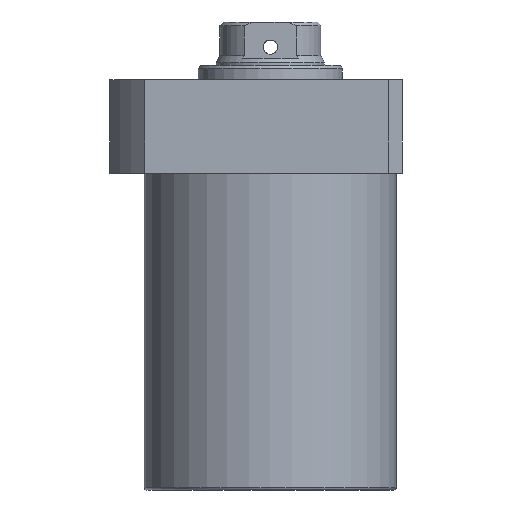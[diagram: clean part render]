
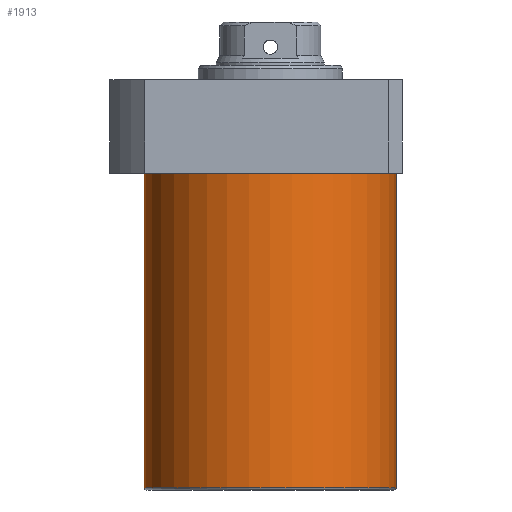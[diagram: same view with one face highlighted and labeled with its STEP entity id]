
A CAD part, front view. The second image highlights one B-rep face of the part: STEP entity #1913.
In plain terms, the highlighted cylindrical face has radius 52.5 mm (diameter 105 mm), a partial arc.
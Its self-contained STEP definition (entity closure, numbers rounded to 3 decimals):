
#8 = DIRECTION ( 'NONE',  ( 0., 0., 1. ) ) ;
#36 = EDGE_CURVE ( 'NONE', #2163, #607, #1877, .T. ) ;
#77 = EDGE_CURVE ( 'NONE', #445, #1042, #773, .T. ) ;
#146 = EDGE_LOOP ( 'NONE', ( #1724, #888, #448, #1392 ) ) ;
#189 = DIRECTION ( 'NONE',  ( 0., 0., 1. ) ) ;
#361 = CARTESIAN_POINT ( 'NONE',  ( -52.5, 0., -19.5 ) ) ;
#445 = VERTEX_POINT ( 'NONE', #1789 ) ;
#448 = ORIENTED_EDGE ( 'NONE', *, *, #1819, .T. ) ;
#514 = CARTESIAN_POINT ( 'NONE',  ( 52.5, 0., -151.5 ) ) ;
#566 = CARTESIAN_POINT ( 'NONE',  ( 52.5, 0., -150.5 ) ) ;
#604 = LINE ( 'NONE', #514, #1918 ) ;
#607 = VERTEX_POINT ( 'NONE', #361 ) ;
#678 = CYLINDRICAL_SURFACE ( 'NONE', #2006, 52.5 ) ;
#683 = DIRECTION ( 'NONE',  ( 0., 0., -1. ) ) ;
#773 = CIRCLE ( 'NONE', #1240, 52.5 ) ;
#862 = DIRECTION ( 'NONE',  ( 0., 0., 1. ) ) ;
#888 = ORIENTED_EDGE ( 'NONE', *, *, #77, .T. ) ;
#941 = CARTESIAN_POINT ( 'NONE',  ( 52.5, 0., -19.5 ) ) ;
#1042 = VERTEX_POINT ( 'NONE', #566 ) ;
#1225 = DIRECTION ( 'NONE',  ( -1., 0., 0. ) ) ;
#1228 = DIRECTION ( 'NONE',  ( 1., 0., 0. ) ) ;
#1240 = AXIS2_PLACEMENT_3D ( 'NONE', #1893, #862, #1225 ) ;
#1389 = DIRECTION ( 'NONE',  ( 0., 0., 1. ) ) ;
#1392 = ORIENTED_EDGE ( 'NONE', *, *, #36, .T. ) ;
#1456 = EDGE_CURVE ( 'NONE', #445, #607, #1906, .T. ) ;
#1579 = VECTOR ( 'NONE', #1389, 1000. ) ;
#1582 = CARTESIAN_POINT ( 'NONE',  ( -52.5, 0., -151.5 ) ) ;
#1706 = CARTESIAN_POINT ( 'NONE',  ( 0., 0., -19.5 ) ) ;
#1724 = ORIENTED_EDGE ( 'NONE', *, *, #1456, .F. ) ;
#1789 = CARTESIAN_POINT ( 'NONE',  ( -52.5, 0., -150.5 ) ) ;
#1819 = EDGE_CURVE ( 'NONE', #1042, #2163, #604, .T. ) ;
#1877 = CIRCLE ( 'NONE', #1895, 52.5 ) ;
#1887 = DIRECTION ( 'NONE',  ( 1., 0., 0. ) ) ;
#1893 = CARTESIAN_POINT ( 'NONE',  ( 0., 0., -150.5 ) ) ;
#1895 = AXIS2_PLACEMENT_3D ( 'NONE', #1706, #683, #1887 ) ;
#1906 = LINE ( 'NONE', #1582, #1579 ) ;
#1913 = ADVANCED_FACE ( 'NONE', ( #2104 ), #678, .T. ) ;
#1918 = VECTOR ( 'NONE', #189, 1000. ) ;
#2006 = AXIS2_PLACEMENT_3D ( 'NONE', #2079, #8, #1228 ) ;
#2079 = CARTESIAN_POINT ( 'NONE',  ( 0., 0., -151.5 ) ) ;
#2104 = FACE_OUTER_BOUND ( 'NONE', #146, .T. ) ;
#2163 = VERTEX_POINT ( 'NONE', #941 ) ;
